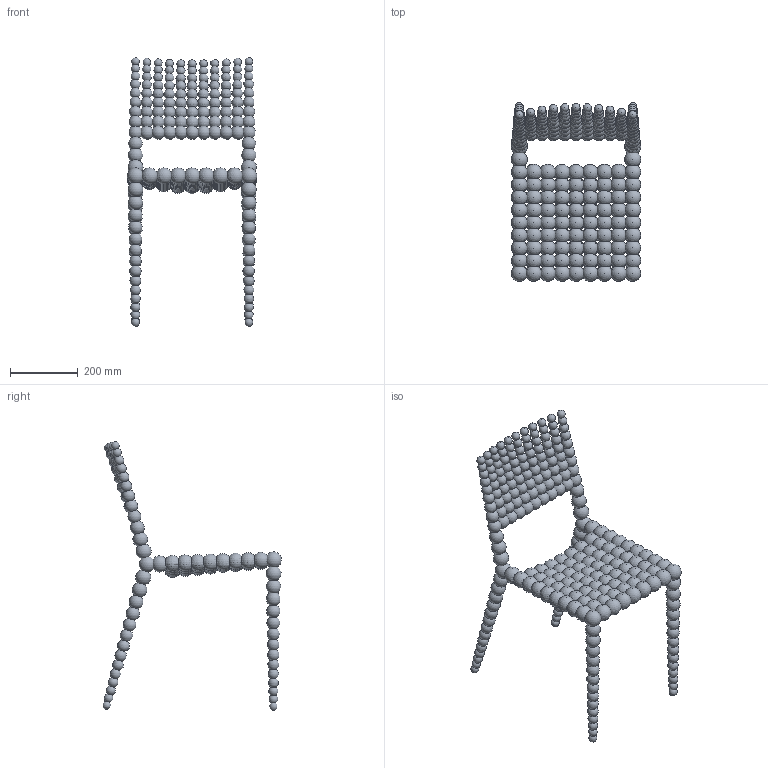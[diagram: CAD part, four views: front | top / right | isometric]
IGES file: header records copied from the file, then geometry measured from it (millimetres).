
Start section: Data from Parasolid IGES Translator 17.0.49, Copyright(c) 2006 Siemens P LM Software. All Rights Reserved.
Global section: file name: Maria.igs; native system: By Siemens PLM Incorporated; preprocessor: XPlus GENERIC/IGES 17.0.49; author: Noname; organization: Noname; date: 20170605.153911; units: metre
Bounding box: 383.93 x 530.22 x 797.09 mm (x, y, z)
Volume: 8001957 mm3; surface area: 1004995.4 mm2
Topology: 24 solids, 24 shells, 246 faces, 696 edges, 450 vertices
Faces by surface type: sphere 246
